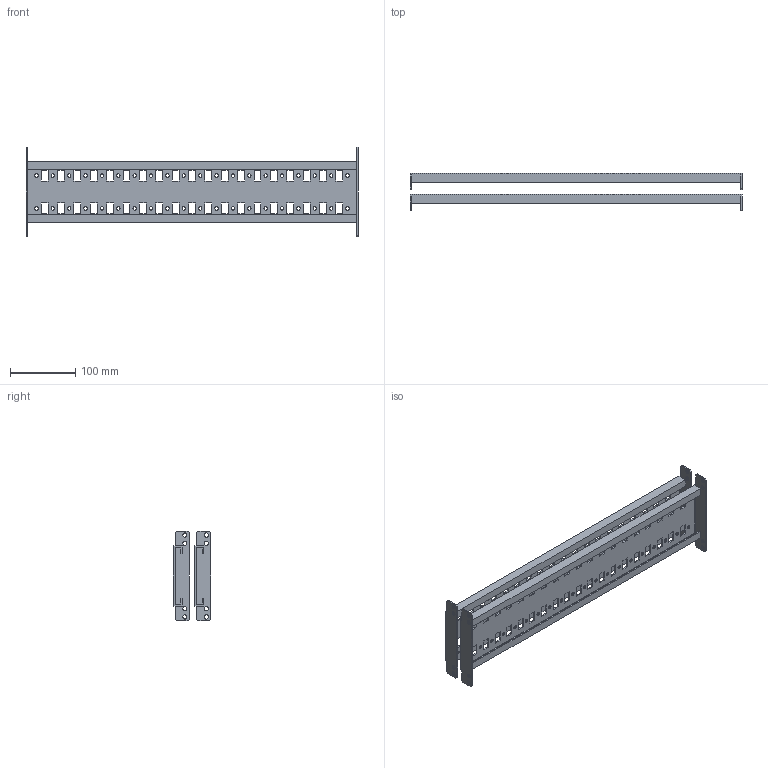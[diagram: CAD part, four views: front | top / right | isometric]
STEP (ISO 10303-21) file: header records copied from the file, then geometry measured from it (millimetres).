
FILE_DESCRIPTION (( 'STEP AP214' ), '1' );
FILE_NAME ('FO-00-RBB-060 Ðåéêà îñíîâàíèÿ òèï Â.STEP', '2025-08-14T07:52:44', ( '' ), ( '' ), 'SwSTEP 2.0', 'SolidWorks 2023', '' );
FILE_SCHEMA (( 'AUTOMOTIVE_DESIGN' ));
Length unit declared in the file: millimetre
Products named in the file (2): Рейка основания тип B 600мм; FO-00-RBB-060 Рейка основания тип В
Assembly tree (2 placements, depth 2):
  FO-00-RBB-060 Рейка основания тип В
    Рейка основания тип B 600мм  x2
Bounding box: 507 x 57.78 x 136 mm (x, y, z)
Volume: 271011.8 mm3; surface area: 283333.6 mm2
Topology: 2 solids, 2 shells, 580 faces, 1720 edges, 1144 vertices
Faces by surface type: plane 388, cylinder 192
Entity records: 10091 total; most frequent: CARTESIAN_POINT 1727, ORIENTED_EDGE 1720, DIRECTION 1642, EDGE_CURVE 860, LINE 668, VECTOR 668, VERTEX_POINT 572, AXIS2_PLACEMENT_3D 487
